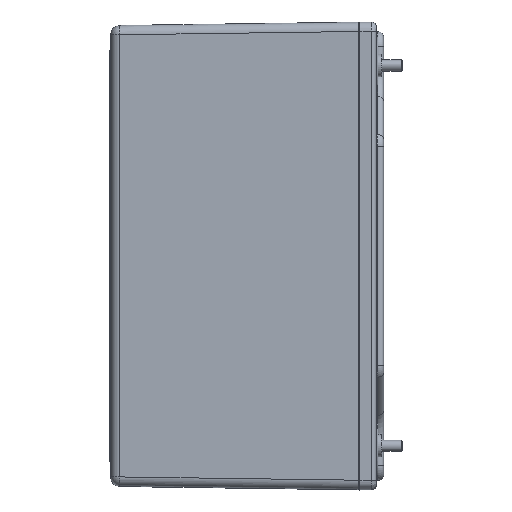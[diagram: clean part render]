
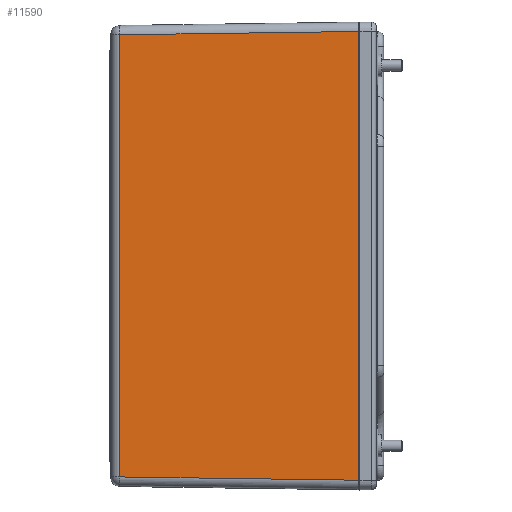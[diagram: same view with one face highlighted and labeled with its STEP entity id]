
A CAD part, top view. The second image highlights one B-rep face of the part: STEP entity #11590.
In plain terms, the highlighted planar face has unit normal (-0.013, 0, 1).
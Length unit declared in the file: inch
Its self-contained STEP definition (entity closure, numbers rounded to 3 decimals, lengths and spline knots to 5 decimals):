
#918 = LINE ( 'NONE', #7315, #6589 ) ;
#1166 = CARTESIAN_POINT ( 'NONE',  ( -5.25845, -4.65585, 2.3872 ) ) ;
#1338 = DIRECTION ( 'NONE',  ( 0., -1., 0. ) ) ;
#1348 = VERTEX_POINT ( 'NONE', #13573 ) ;
#1374 = LINE ( 'NONE', #6428, #9757 ) ;
#1453 = FACE_OUTER_BOUND ( 'NONE', #12498, .T. ) ;
#1964 = VECTOR ( 'NONE', #8149, 39.37008 ) ;
#3107 = LINE ( 'NONE', #15577, #1964 ) ;
#3789 = DIRECTION ( 'NONE',  ( 1., -0.014, 0.013 ) ) ;
#4217 = ORIENTED_EDGE ( 'NONE', *, *, #15018, .F. ) ;
#4258 = DIRECTION ( 'NONE',  ( 0., 1., 0. ) ) ;
#4610 = VECTOR ( 'NONE', #8777, 39.37008 ) ;
#4706 = EDGE_CURVE ( 'NONE', #15404, #4783, #1374, .T. ) ;
#4783 = VERTEX_POINT ( 'NONE', #5023 ) ;
#5023 = CARTESIAN_POINT ( 'NONE',  ( -0.2362, -4.72511, 2.45207 ) ) ;
#5169 = ORIENTED_EDGE ( 'NONE', *, *, #4706, .T. ) ;
#5574 = ORIENTED_EDGE ( 'NONE', *, *, #6109, .F. ) ;
#6109 = EDGE_CURVE ( 'NONE', #6773, #4783, #918, .T. ) ;
#6428 = CARTESIAN_POINT ( 'NONE',  ( -5.25845, -4.65585, 2.3872 ) ) ;
#6589 = VECTOR ( 'NONE', #1338, 39.37008 ) ;
#6773 = VERTEX_POINT ( 'NONE', #7644 ) ;
#7315 = CARTESIAN_POINT ( 'NONE',  ( -0.2362, 4.72511, 2.45207 ) ) ;
#7644 = CARTESIAN_POINT ( 'NONE',  ( -0.2362, 4.72511, 2.45207 ) ) ;
#7746 = CARTESIAN_POINT ( 'NONE',  ( 0., 5.10719, 2.45512 ) ) ;
#8149 = DIRECTION ( 'NONE',  ( -1., -0.014, -0.013 ) ) ;
#8777 = DIRECTION ( 'NONE',  ( 0., 1., 0. ) ) ;
#9757 = VECTOR ( 'NONE', #3789, 39.37008 ) ;
#10101 = AXIS2_PLACEMENT_3D ( 'NONE', #7746, #15573, #4258 ) ;
#10530 = PLANE ( 'NONE',  #10101 ) ;
#10742 = ORIENTED_EDGE ( 'NONE', *, *, #14539, .T. ) ;
#11416 = LINE ( 'NONE', #1166, #4610 ) ;
#11590 = ADVANCED_FACE ( 'NONE', ( #1453 ), #10530, .T. ) ;
#12498 = EDGE_LOOP ( 'NONE', ( #10742, #4217, #5169, #5574 ) ) ;
#13573 = CARTESIAN_POINT ( 'NONE',  ( -5.25845, 4.65585, 2.3872 ) ) ;
#14539 = EDGE_CURVE ( 'NONE', #6773, #1348, #3107, .T. ) ;
#14643 = CARTESIAN_POINT ( 'NONE',  ( -5.25845, -4.65585, 2.3872 ) ) ;
#15018 = EDGE_CURVE ( 'NONE', #15404, #1348, #11416, .T. ) ;
#15404 = VERTEX_POINT ( 'NONE', #14643 ) ;
#15573 = DIRECTION ( 'NONE',  ( -0.013, 0., 1. ) ) ;
#15577 = CARTESIAN_POINT ( 'NONE',  ( -0.2362, 4.72511, 2.45207 ) ) ;
